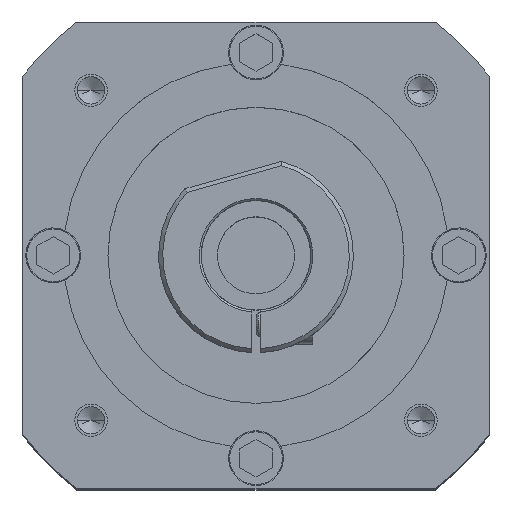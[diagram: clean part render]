
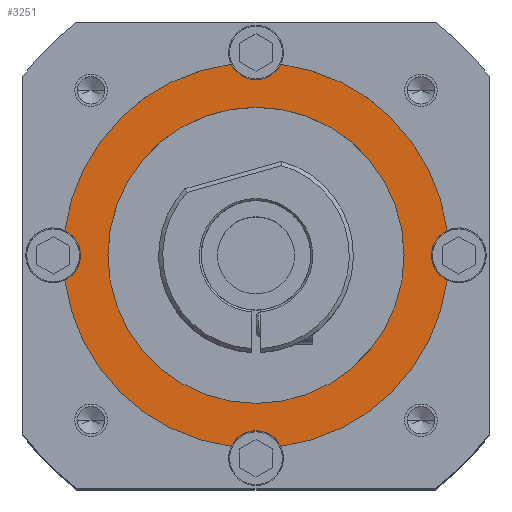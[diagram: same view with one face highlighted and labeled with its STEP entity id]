
A CAD part, top view. The second image highlights one B-rep face of the part: STEP entity #3251.
In plain terms, the highlighted planar face has unit normal (0, 0, 1).
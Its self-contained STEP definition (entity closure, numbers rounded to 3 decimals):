
#943=CARTESIAN_POINT('',(0.,0.,44.));
#944=DIRECTION('',(0.,0.,1.));
#945=DIRECTION('',(1.,0.,0.));
#946=AXIS2_PLACEMENT_3D('',#943,#944,#945);
#948=CARTESIAN_POINT('',(0.,0.,44.));
#949=DIRECTION('',(0.,0.,1.));
#950=DIRECTION('',(-1.,0.,0.));
#951=AXIS2_PLACEMENT_3D('',#948,#949,#950);
#953=CARTESIAN_POINT('',(0.,50.,44.));
#954=DIRECTION('',(0.,0.,-1.));
#955=DIRECTION('',(0.903,-0.429,0.));
#956=AXIS2_PLACEMENT_3D('',#953,#954,#955);
#958=CARTESIAN_POINT('',(50.,0.,44.));
#959=DIRECTION('',(0.,0.,-1.));
#960=DIRECTION('',(-1.,0.,0.));
#961=AXIS2_PLACEMENT_3D('',#958,#959,#960);
#963=CARTESIAN_POINT('',(50.,0.,44.));
#964=DIRECTION('',(0.,0.,-1.));
#965=DIRECTION('',(-0.429,-0.903,0.));
#966=AXIS2_PLACEMENT_3D('',#963,#964,#965);
#968=CARTESIAN_POINT('',(0.,-50.,44.));
#969=DIRECTION('',(0.,0.,-1.));
#970=DIRECTION('',(-0.903,0.429,0.));
#971=AXIS2_PLACEMENT_3D('',#968,#969,#970);
#973=CARTESIAN_POINT('',(-50.,0.,44.));
#974=DIRECTION('',(0.,0.,-1.));
#975=DIRECTION('',(1.,0.,0.));
#976=AXIS2_PLACEMENT_3D('',#973,#974,#975);
#978=CARTESIAN_POINT('',(-50.,0.,44.));
#979=DIRECTION('',(0.,0.,-1.));
#980=DIRECTION('',(0.429,0.903,0.));
#981=AXIS2_PLACEMENT_3D('',#978,#979,#980);
#1022=CARTESIAN_POINT('',(0.,0.,44.));
#1023=DIRECTION('',(0.,0.,1.));
#1024=DIRECTION('',(-0.992,-0.128,0.));
#1025=AXIS2_PLACEMENT_3D('',#1022,#1023,#1024);
#1040=CARTESIAN_POINT('',(0.,0.,44.));
#1041=DIRECTION('',(0.,0.,1.));
#1042=DIRECTION('',(0.128,-0.992,0.));
#1043=AXIS2_PLACEMENT_3D('',#1040,#1041,#1042);
#1058=CARTESIAN_POINT('',(0.,0.,44.));
#1059=DIRECTION('',(0.,0.,1.));
#1060=DIRECTION('',(0.992,0.128,0.));
#1061=AXIS2_PLACEMENT_3D('',#1058,#1059,#1060);
#1067=CARTESIAN_POINT('',(0.,0.,44.));
#1068=DIRECTION('',(0.,0.,1.));
#1069=DIRECTION('',(-0.128,0.992,0.));
#1070=AXIS2_PLACEMENT_3D('',#1067,#1068,#1069);
#1745=CARTESIAN_POINT('',(36.5,0.,44.));
#1746=VERTEX_POINT('',#1745);
#1747=CARTESIAN_POINT('',(-36.5,0.,44.));
#1748=VERTEX_POINT('',#1747);
#1839=CARTESIAN_POINT('',(-43.25,0.,44.));
#1840=VERTEX_POINT('',#1839);
#1877=CARTESIAN_POINT('',(43.25,0.,44.));
#1878=VERTEX_POINT('',#1877);
#1905=CARTESIAN_POINT('',(-47.107,6.099,44.));
#1906=VERTEX_POINT('',#1905);
#1907=CARTESIAN_POINT('',(-47.107,-6.099,44.));
#1908=VERTEX_POINT('',#1907);
#1911=CARTESIAN_POINT('',(-6.099,-47.107,44.));
#1912=CARTESIAN_POINT('',(6.099,-47.107,44.));
#1913=VERTEX_POINT('',#1911);
#1914=VERTEX_POINT('',#1912);
#1915=CARTESIAN_POINT('',(47.107,6.099,44.));
#1916=VERTEX_POINT('',#1915);
#1917=CARTESIAN_POINT('',(47.107,-6.099,44.));
#1918=VERTEX_POINT('',#1917);
#1921=CARTESIAN_POINT('',(6.099,47.107,44.));
#1922=CARTESIAN_POINT('',(-6.099,47.107,44.));
#1923=VERTEX_POINT('',#1921);
#1924=VERTEX_POINT('',#1922);
#3220=CARTESIAN_POINT('',(0.,0.,44.));
#3221=DIRECTION('',(0.,0.,1.));
#3222=DIRECTION('',(1.,0.,0.));
#3223=AXIS2_PLACEMENT_3D('',#3220,#3221,#3222);
#3224=PLANE('',#3223);
#3226=ORIENTED_EDGE('',*,*,#3225,.F.);
#3228=ORIENTED_EDGE('',*,*,#3227,.F.);
#3230=ORIENTED_EDGE('',*,*,#3229,.F.);
#3232=ORIENTED_EDGE('',*,*,#3231,.F.);
#3234=ORIENTED_EDGE('',*,*,#3233,.F.);
#3236=ORIENTED_EDGE('',*,*,#3235,.F.);
#3238=ORIENTED_EDGE('',*,*,#3237,.F.);
#3240=ORIENTED_EDGE('',*,*,#3239,.F.);
#3242=ORIENTED_EDGE('',*,*,#3241,.F.);
#3244=ORIENTED_EDGE('',*,*,#3243,.F.);
#3245=EDGE_LOOP('',(#3226,#3228,#3230,#3232,#3234,#3236,#3238,#3240,#3242,
#3244));
#3246=FACE_OUTER_BOUND('',#3245,.F.);
#3247=ORIENTED_EDGE('',*,*,#3167,.T.);
#3248=ORIENTED_EDGE('',*,*,#3145,.T.);
#3249=EDGE_LOOP('',(#3247,#3248));
#3250=FACE_BOUND('',#3249,.F.);
#3251=ADVANCED_FACE('',(#3246,#3250),#3224,.T.);
#947=CIRCLE('',#946,36.5);
#952=CIRCLE('',#951,36.5);
#957=CIRCLE('',#956,6.75);
#962=CIRCLE('',#961,6.75);
#967=CIRCLE('',#966,6.75);
#972=CIRCLE('',#971,6.75);
#977=CIRCLE('',#976,6.75);
#982=CIRCLE('',#981,6.75);
#1026=CIRCLE('',#1025,47.5);
#1044=CIRCLE('',#1043,47.5);
#1062=CIRCLE('',#1061,47.5);
#1071=CIRCLE('',#1070,47.5);
#3145=EDGE_CURVE('',#1748,#1746,#952,.T.);
#3167=EDGE_CURVE('',#1746,#1748,#947,.T.);
#3225=EDGE_CURVE('',#1923,#1924,#957,.T.);
#3227=EDGE_CURVE('',#1916,#1923,#1062,.T.);
#3229=EDGE_CURVE('',#1878,#1916,#962,.T.);
#3231=EDGE_CURVE('',#1918,#1878,#967,.T.);
#3233=EDGE_CURVE('',#1914,#1918,#1044,.T.);
#3235=EDGE_CURVE('',#1913,#1914,#972,.T.);
#3237=EDGE_CURVE('',#1908,#1913,#1026,.T.);
#3239=EDGE_CURVE('',#1840,#1908,#977,.T.);
#3241=EDGE_CURVE('',#1906,#1840,#982,.T.);
#3243=EDGE_CURVE('',#1924,#1906,#1071,.T.);
